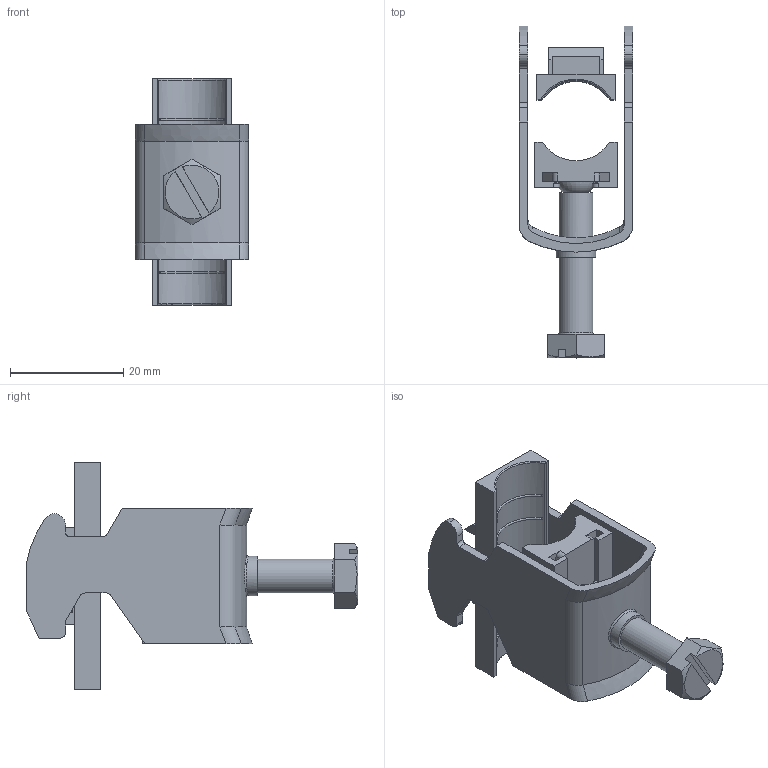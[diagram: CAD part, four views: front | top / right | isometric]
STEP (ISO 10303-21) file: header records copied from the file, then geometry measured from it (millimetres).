
FILE_DESCRIPTION(('STEP AP214'), '1');
FILE_NAME('Çàæèì êàáåëüíûé, 6-14', '2025-11-28T10:02:26', (''), (''), 'ASCON STEP Converter 1.6', 'ASCON Math Kernel', '');
FILE_SCHEMA(('AUTOMOTIVE_DESIGN { 1 0 10303 214 3 1 1}'));
Length unit declared in the file: millimetre
Bounding box: 20 x 58.7 x 40 mm (x, y, z)
Volume: 7033.7 mm3; surface area: 8433.1 mm2
Topology: 2 solids, 2 shells, 173 faces, 469 edges, 309 vertices
Faces by surface type: plane 107, cylinder 40, bspline 13, torus 7, cone 6
Full cylindrical faces by diameter (mm): 6 x2, 7 x1
Entity records: 8321 total; most frequent: CARTESIAN_POINT 2549, ORIENTED_EDGE 926, DIRECTION 859, EDGE_CURVE 463, VERTEX_POINT 309, LINE 309, VECTOR 309, AXIS2_PLACEMENT_3D 275
